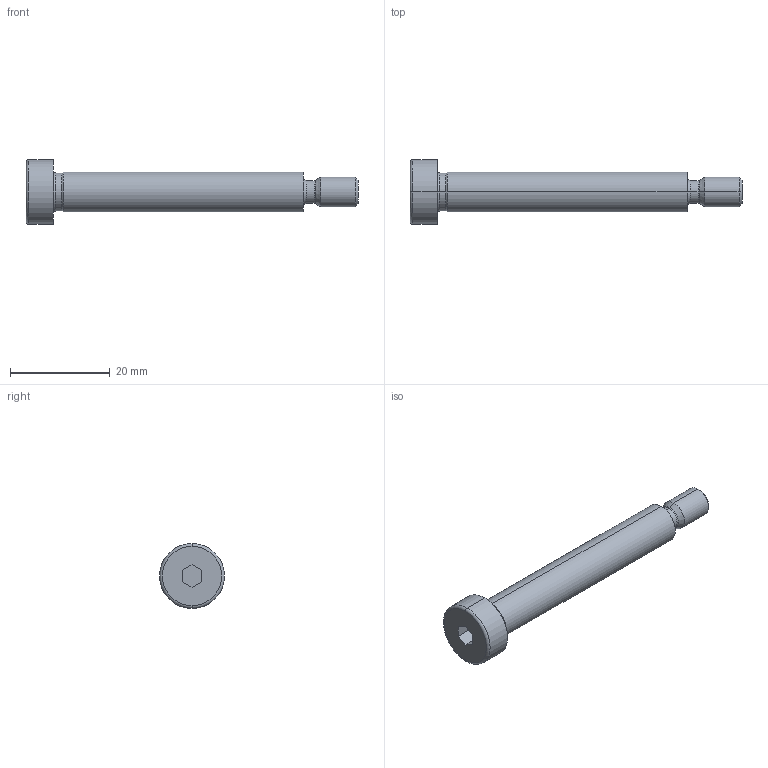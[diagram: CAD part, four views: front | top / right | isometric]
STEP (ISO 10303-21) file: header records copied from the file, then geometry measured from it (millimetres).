
FILE_DESCRIPTION (( 'STEP AP214' ), '1' );
FILE_NAME ('7379-8-M6-50-NI.step', '2020-10-13T12:53:40', ( '' ), ( '' ), 'SwSTEP 2.0', 'SolidWorks 2019', '' );
FILE_SCHEMA (( 'AUTOMOTIVE_DESIGN' ));
Length unit declared in the file: millimetre
Products named in the file (1): 7379-8-M6-50-NI
Bounding box: 66.5 x 13 x 13 mm (x, y, z)
Volume: 3461 mm3; surface area: 1980.9 mm2
Topology: 1 solids, 1 shells, 35 faces, 72 edges, 42 vertices
Faces by surface type: plane 11, cylinder 10, torus 8, cone 6
Entity records: 976 total; most frequent: DIRECTION 182, CARTESIAN_POINT 150, ORIENTED_EDGE 144, AXIS2_PLACEMENT_3D 74, EDGE_CURVE 72, VERTEX_POINT 42, EDGE_LOOP 38, CIRCLE 38
